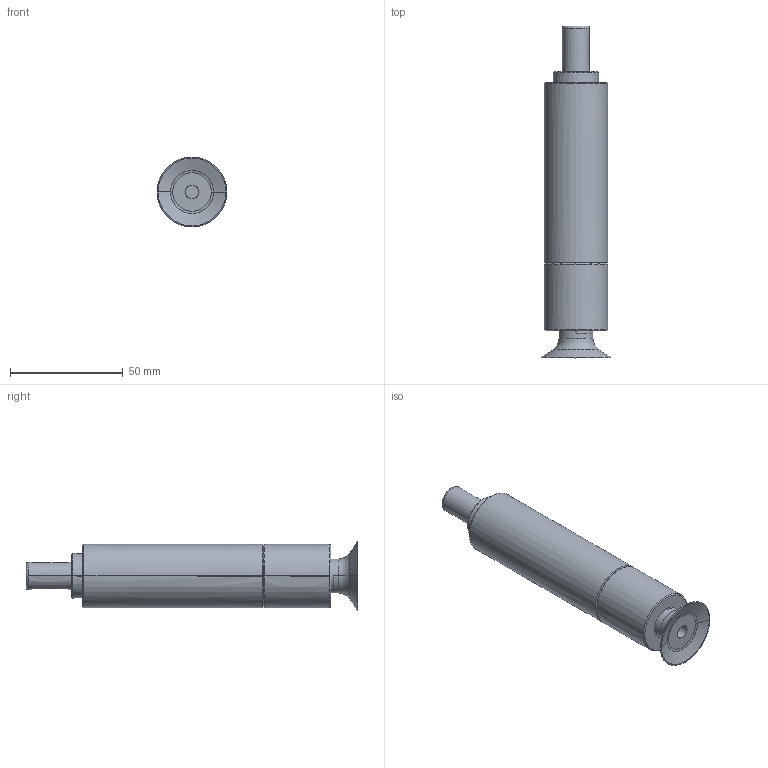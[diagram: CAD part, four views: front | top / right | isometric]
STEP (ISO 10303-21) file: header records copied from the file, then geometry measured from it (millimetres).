
FILE_DESCRIPTION((''),'2;1');
FILE_NAME('3D-NDGPAK30','2014-01-18T',('yfs-01'),('foxconn'),'PRO/ENGINEER BY PARAMETRIC TECHNOLOGY CORPORATION, 2007230','PRO/ENGINEER BY PARAMETRIC TECHNOLOGY CORPORATION, 2007230','');
FILE_SCHEMA(('CONFIG_CONTROL_DESIGN'));
Length unit declared in the file: millimetre
Products named in the file (1): 3D-NDGPAK30
Bounding box: 31 x 147.2 x 31 mm (x, y, z)
Surface area: 20922.6 mm2 (no closed solid volume)
Topology: 0 solids, 0 shells, 84 faces, 340 edges, 338 vertices
Faces by surface type: bspline 78, torus 6
Entity records: 9168 total; most frequent: CARTESIAN_POINT 5872, DIRECTION 564, TRIMMED_CURVE 448, VECTOR 344, LINE 344, DEFINITIONAL_REPRESENTATION 336, PCURVE 336, COMPOSITE_CURVE_SEGMENT 336
